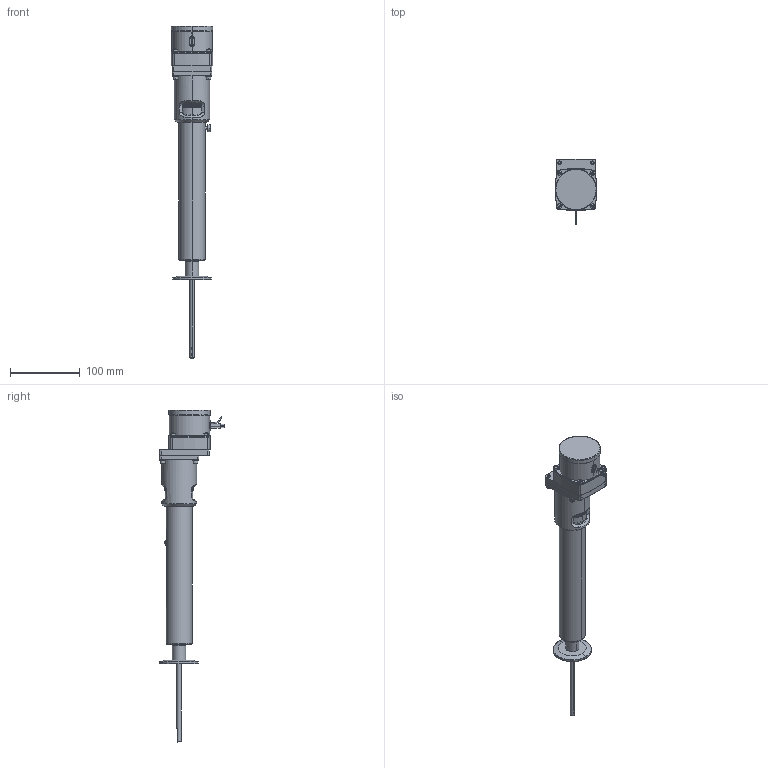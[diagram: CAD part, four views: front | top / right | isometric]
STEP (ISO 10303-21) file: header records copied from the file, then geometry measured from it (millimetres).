
FILE_DESCRIPTION (( 'STEP AP203' ), '1' );
FILE_NAME ('113081.21.stp', '2019-03-12T15:52:25', ( '' ), ( '' ), 'SwSTEP 2.0', 'SolidWorks 2012', '' );
FILE_SCHEMA (( 'CONFIG_CONTROL_DESIGN' ));
Products named in the file (1): 113081.21
Bounding box: 59.78 x 93.89 x 477.49 mm (x, y, z)
Volume: 584365.3 mm3; surface area: 72623.1 mm2
Topology: 1 solids, 4 shells, 1232 faces, 3295 edges, 2137 vertices
Faces by surface type: plane 577, cylinder 364, bspline 176, cone 115
Entity records: 64089 total; most frequent: CARTESIAN_POINT 34726, ORIENTED_EDGE 6590, DIRECTION 5469, EDGE_CURVE 3295, VERTEX_POINT 2137, AXIS2_PLACEMENT_3D 1952, VECTOR 1565, LINE 1565
